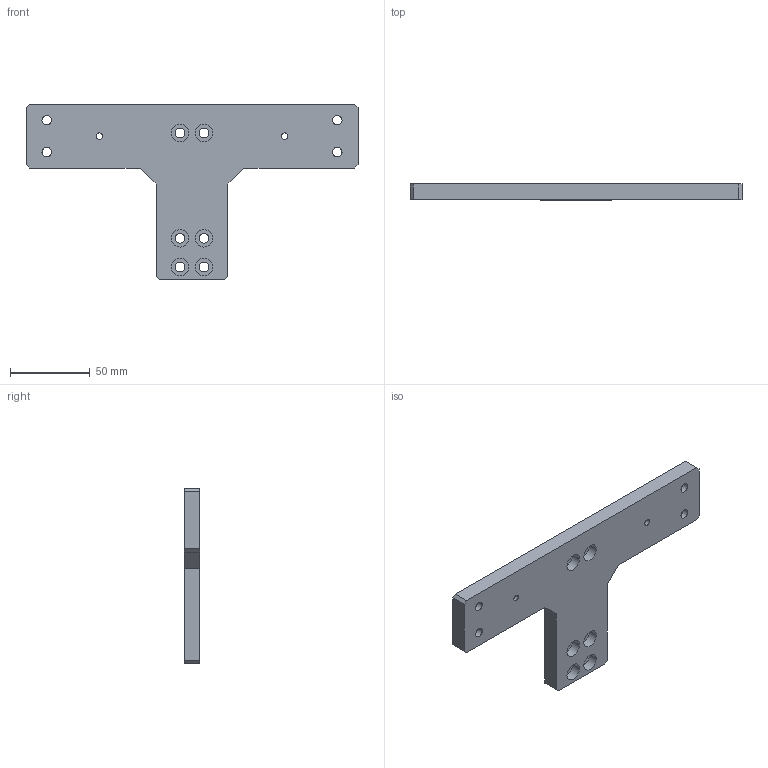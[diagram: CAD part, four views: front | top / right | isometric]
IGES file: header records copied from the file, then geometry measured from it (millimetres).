
Start section:  PTC IGES file: n46-n46l-st.igs
Global section: file name: n46-n46l-st.igs; native system: Pro/ENGINEER by Parametric Technology Corporation; preprocessor: 2008230; author: Owner; organization: Unknown; date: 20121211.160835; units: millimetre
Bounding box: 208 x 10 x 110 mm (x, y, z)
Surface area: 31852.1 mm2 (no closed solid volume)
Topology: 0 solids, 0 shells, 78 faces, 384 edges, 384 vertices
Faces by surface type: revolution 48, bspline 30
